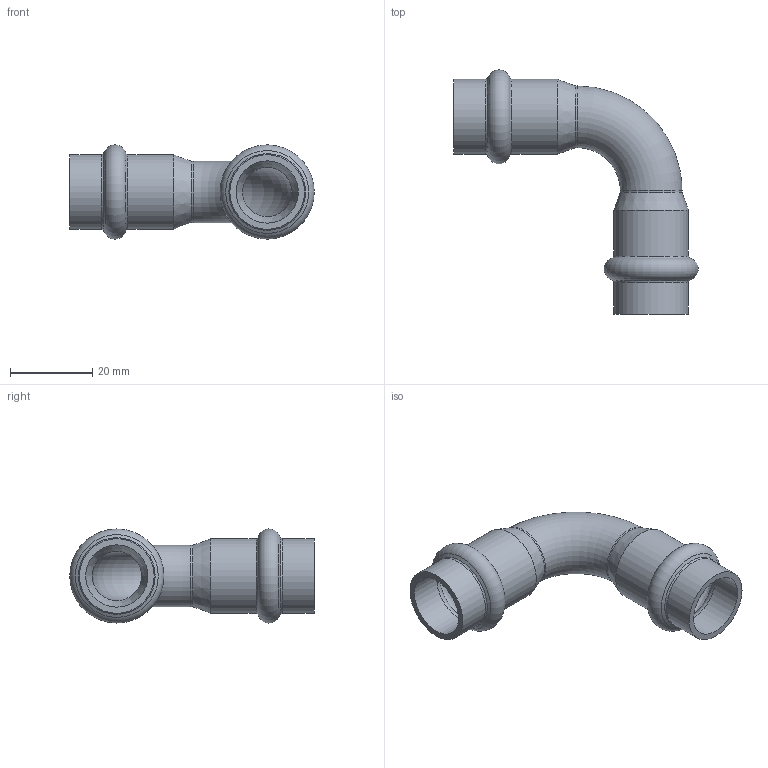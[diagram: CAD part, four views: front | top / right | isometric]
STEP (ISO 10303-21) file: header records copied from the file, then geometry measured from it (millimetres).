
FILE_DESCRIPTION((''),'2;1');
FILE_NAME('G:\Nirosan-Schmiedefeld\Technics\CAD\Bauteile VA\015\69002A15(1).stp','2011-09-28T15:29:58',('herberg'),(''),'Autodesk Inventor 2009','Autodesk Inventor 2009','');
FILE_SCHEMA(('AUTOMOTIVE_DESIGN { 1 0 10303 214 1 1 1 1 }'));
Length unit declared in the file: millimetre
Products named in the file (1): 69002A15(1)
Bounding box: 59.45 x 59.44 x 22.9 mm (x, y, z)
Volume: 6999.3 mm3; surface area: 9489.5 mm2
Topology: 1 solids, 1 shells, 36 faces, 72 edges, 38 vertices
Faces by surface type: cylinder 12, cone 8, torus 8, bspline 6, plane 2
Full cylindrical faces by diameter (mm): 12 x2, 15 x2, 15.15 x4, 18.15 x4
Entity records: 1066 total; most frequent: CARTESIAN_POINT 445, DIRECTION 134, ORIENTED_EDGE 72, EDGE_LOOP 72, AXIS2_PLACEMENT_3D 67, VERTEX_POINT 36, CIRCLE 36, EDGE_CURVE 36
